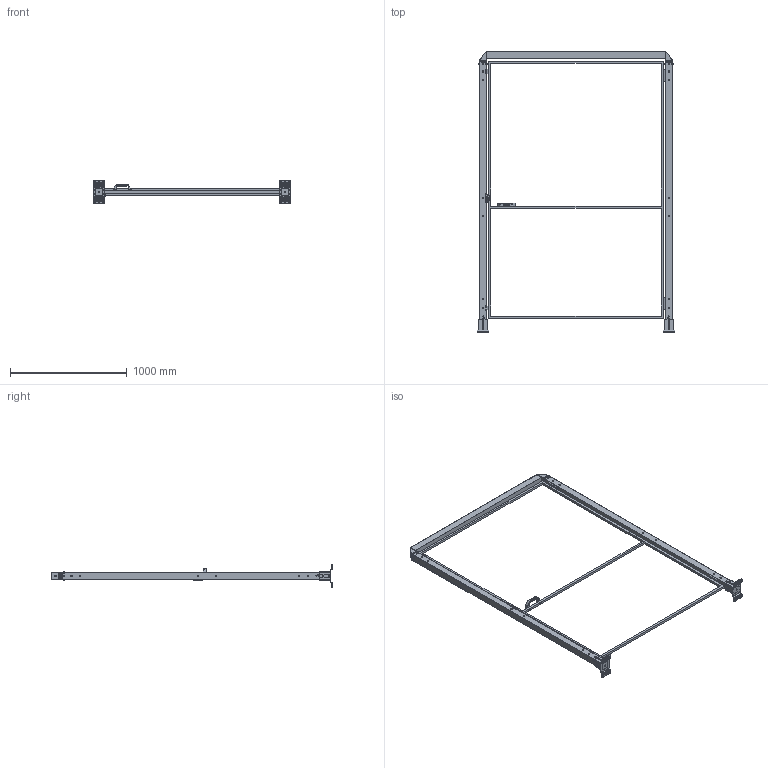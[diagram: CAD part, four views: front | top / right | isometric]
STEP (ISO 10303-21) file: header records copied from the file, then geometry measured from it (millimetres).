
FILE_DESCRIPTION(('STEP AP242'),'1');
FILE_NAME('vfda_bscncr2_15002320.stp','2025-01-23T13:58:49',('TraceParts'),('TraceParts S.A.'),'Spatial InterOp 3D',' ',' ');
FILE_SCHEMA(('AP242_MANAGED_MODEL_BASED_3D_ENGINEERING_MIM_LF {1 0 10303 442 1 1 4}'));
Length unit declared in the file: millimetre
Products named in the file (1): vfda_bscncr2_15002320_1
Bounding box: 1690 x 2401 x 192 mm (x, y, z)
Volume: 6237652.4 mm3; surface area: 3895260 mm2
Topology: 12 solids, 12 shells, 1942 faces, 5208 edges, 3340 vertices
Faces by surface type: plane 950, cylinder 652, bspline 236, cone 60, torus 40, sphere 4
Entity records: 78408 total; most frequent: CARTESIAN_POINT 14215, ORIENTED_EDGE 10408, DIRECTION 9578, EDGE_CURVE 5204, VERTEX_POINT 3340, LINE 3216, VECTOR 3216, AXIS2_PLACEMENT_3D 3181
